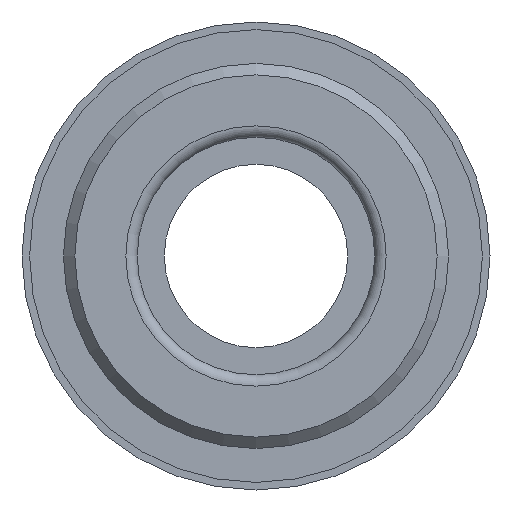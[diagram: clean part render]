
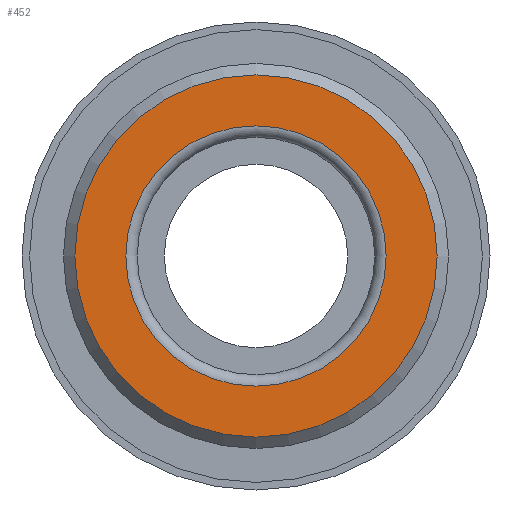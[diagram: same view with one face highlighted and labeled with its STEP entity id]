
A CAD part, left-side view. The second image highlights one B-rep face of the part: STEP entity #452.
In plain terms, the highlighted planar face has unit normal (-1, 0, 0).
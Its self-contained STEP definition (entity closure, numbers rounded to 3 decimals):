
#40=PLANE('',#506);
#58=CIRCLE('',#507,9.042);
#59=CIRCLE('',#508,6.5);
#97=ORIENTED_EDGE('',*,*,#215,.F.);
#98=ORIENTED_EDGE('',*,*,#216,.F.);
#215=EDGE_CURVE('',#270,#270,#58,.T.);
#216=EDGE_CURVE('',#271,#271,#59,.F.);
#270=VERTEX_POINT('',#763);
#271=VERTEX_POINT('',#765);
#329=EDGE_LOOP('',(#97));
#330=EDGE_LOOP('',(#98));
#383=FACE_BOUND('',#329,.T.);
#384=FACE_BOUND('',#330,.T.);
#452=ADVANCED_FACE('',(#383,#384),#40,.F.);
#506=AXIS2_PLACEMENT_3D('',#761,#583,#584);
#507=AXIS2_PLACEMENT_3D('',#762,#585,#586);
#508=AXIS2_PLACEMENT_3D('',#764,#587,#588);
#583=DIRECTION('',(1.,0.,0.));
#584=DIRECTION('',(0.,0.,-1.));
#585=DIRECTION('',(1.,0.,0.));
#586=DIRECTION('',(0.,0.,-1.));
#587=DIRECTION('',(1.,0.,0.));
#588=DIRECTION('',(0.,0.,-1.));
#761=CARTESIAN_POINT('',(-0.572,0.,0.));
#762=CARTESIAN_POINT('',(-0.572,0.,0.));
#763=CARTESIAN_POINT('',(-0.572,0.,-9.042));
#764=CARTESIAN_POINT('',(-0.572,0.,0.));
#765=CARTESIAN_POINT('',(-0.572,0.,-6.5));
